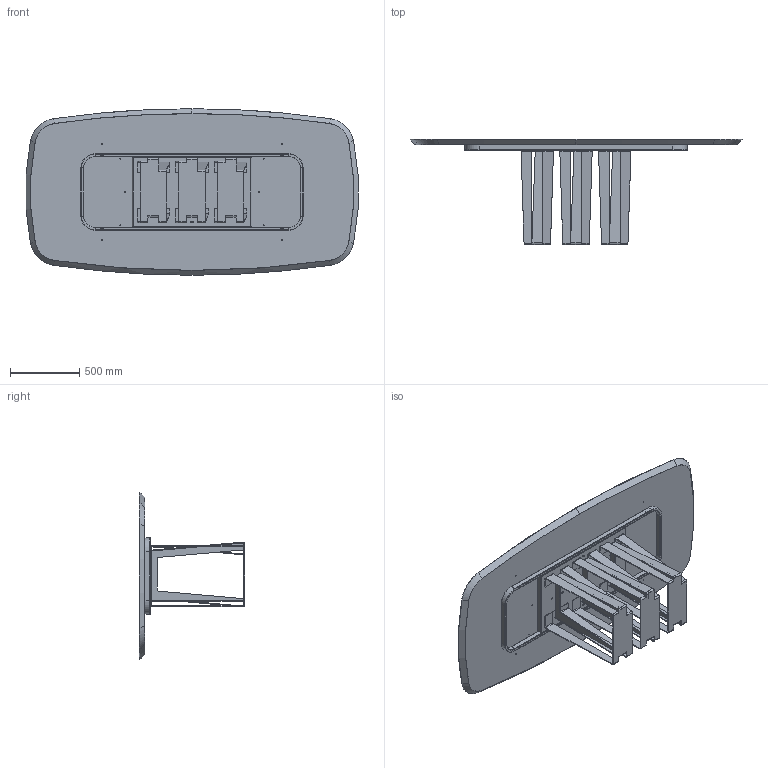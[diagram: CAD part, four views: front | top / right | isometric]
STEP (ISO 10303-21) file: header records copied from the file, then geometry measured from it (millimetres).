
FILE_DESCRIPTION (( 'STEP AP203' ), '1' );
FILE_NAME ('NA43W.STEP', '2024-08-07T14:38:42', ( '' ), ( '' ), 'SwSTEP 2.0', 'SolidWorks 2022', '' );
FILE_SCHEMA (( 'CONFIG_CONTROL_DESIGN' ));
Length unit declared in the file: millimetre
Products named in the file (7): TTAV01_02-01-VASSOIO IRRIGIDIMENTO TELAIO UNIVERSALE; TTAV01-01-TELAIO UNIVERSALE X TAVOLI 180 240cm; NAB000000-00-NARCISO BASE SING. GREZZA; W4XCMXX-00-Piani Sagomati legno_2400 x 1200; NA43W; TTAV01_01-01-TELAIO UNIVERSALE X TAVOLI 180 240cm_Default<A macchina>; M8xXXmm_M8x55mm
Assembly tree (17 placements, depth 3):
  NA43W
    W4XCMXX-00-Piani Sagomati legno_2400 x 1200
    TTAV01-01-TELAIO UNIVERSALE X TAVOLI 180 240cm
      TTAV01_01-01-TELAIO UNIVERSALE X TAVOLI 180 240cm_Default<A macchina>
      TTAV01_02-01-VASSOIO IRRIGIDIMENTO TELAIO UNIVERSALE
    NAB000000-00-NARCISO BASE SING. GREZZA  x3
    M8xXXmm_M8x55mm  x10
Bounding box: 2391.9 x 758 x 1200 mm (x, y, z)
Volume: 108553669.7 mm3; surface area: 10338959.8 mm2
Topology: 26 solids, 26 shells, 1154 faces, 2825 edges, 1698 vertices
Faces by surface type: plane 577, cylinder 305, cone 155, torus 81, bspline 36
Entity records: 19129 total; most frequent: CARTESIAN_POINT 3448, DIRECTION 3160, ORIENTED_EDGE 2974, EDGE_CURVE 1487, AXIS2_PLACEMENT_3D 1130, VERTEX_POINT 942, VECTOR 900, LINE 900
